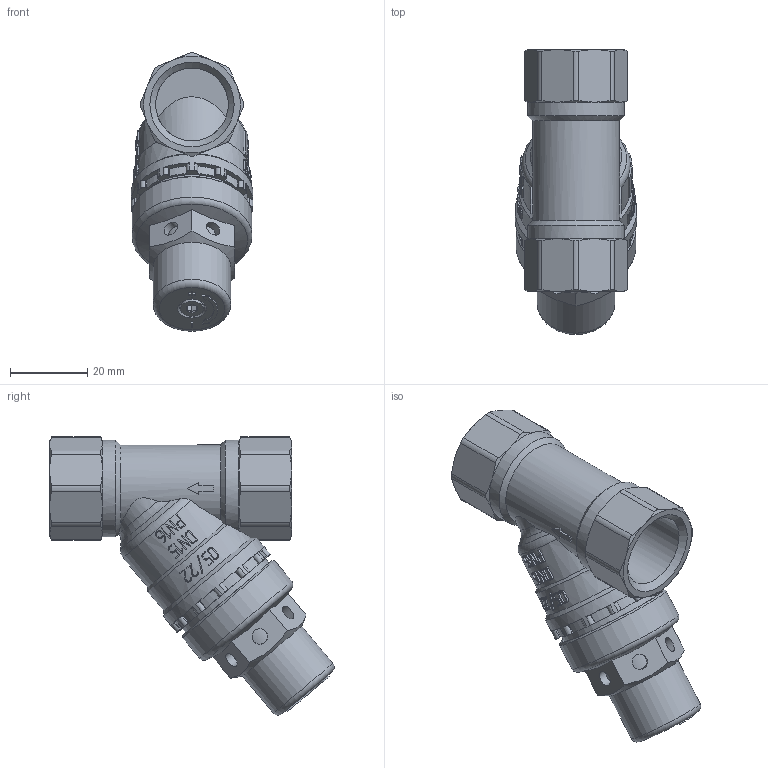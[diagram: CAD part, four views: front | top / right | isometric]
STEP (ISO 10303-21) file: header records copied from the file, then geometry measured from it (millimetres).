
FILE_DESCRIPTION(('STEP AP203'), '1');
FILE_NAME('VT.081.N.04', '', ('UNSPECIFIED'), ('UNSPECIFIED'), 'C3D Converter', 'C3D Toolkit', '');
FILE_SCHEMA(('CONFIG_CONTROL_DESIGN'));
Length unit declared in the file: millimetre
Products named in the file (1): ВР.493612.001.000
Bounding box: 31.5 x 73.54 x 71.96 mm (x, y, z)
Volume: 46692.2 mm3; surface area: 14713.9 mm2
Topology: 1 solids, 1 shells, 748 faces, 2061 edges, 1362 vertices
Faces by surface type: plane 295, extrusion 288, cylinder 117, cone 41, torus 5, bspline 2
Full cylindrical faces by diameter (mm): 4 x6, 6 x1, 6.5 x1, 16 x1, 18.8 x2, 20 x1, 25 x1, 28 x1, 31 x1, 31.5 x1
Entity records: 33934 total; most frequent: CARTESIAN_POINT 16533, ORIENTED_EDGE 4062, DIRECTION 2672, EDGE_CURVE 2031, VERTEX_POINT 1361, VECTOR 1154, B_SPLINE_CURVE_WITH_KNOTS 1015, LINE 866
